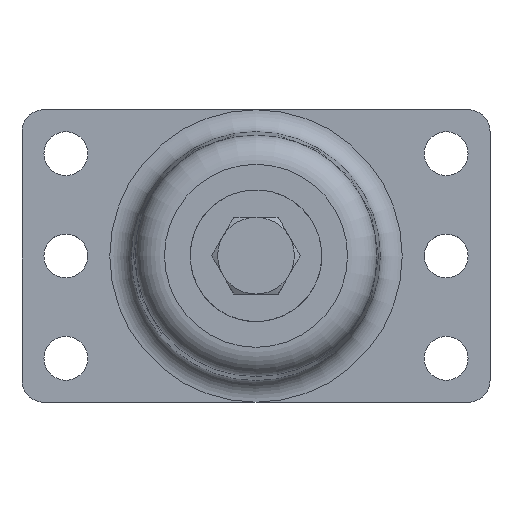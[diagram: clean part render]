
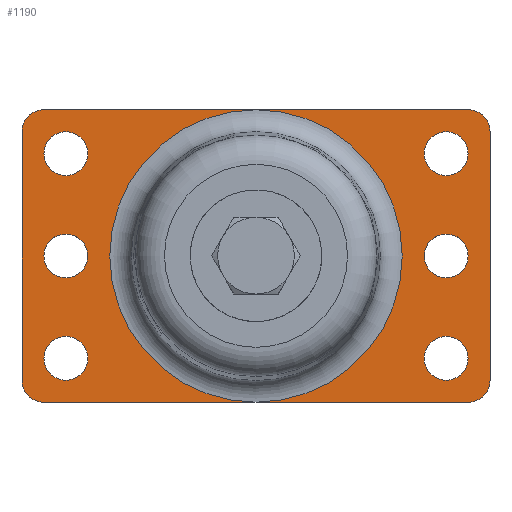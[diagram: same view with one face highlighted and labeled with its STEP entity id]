
A CAD part, top view. The second image highlights one B-rep face of the part: STEP entity #1190.
In plain terms, the highlighted planar face has unit normal (0, 0, 1).
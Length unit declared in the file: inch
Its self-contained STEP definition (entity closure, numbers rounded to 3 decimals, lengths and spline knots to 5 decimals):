
#63=PLANE('',#1308);
#98=LINE('',#1858,#132);
#102=LINE('',#1870,#136);
#106=LINE('',#1882,#140);
#110=LINE('',#1893,#144);
#132=VECTOR('',#1486,7.25);
#136=VECTOR('',#1498,4.25);
#140=VECTOR('',#1510,4.25);
#144=VECTOR('',#1522,7.25);
#173=FACE_BOUND('',#349,.T.);
#174=FACE_BOUND('',#350,.T.);
#175=FACE_BOUND('',#351,.T.);
#176=FACE_BOUND('',#352,.T.);
#177=FACE_BOUND('',#353,.T.);
#178=FACE_BOUND('',#354,.T.);
#179=FACE_BOUND('',#355,.T.);
#252=FACE_OUTER_BOUND('',#348,.T.);
#348=EDGE_LOOP('',(#848,#849,#850,#851,#852,#853,#854,#855));
#349=EDGE_LOOP('',(#856));
#350=EDGE_LOOP('',(#857));
#351=EDGE_LOOP('',(#858));
#352=EDGE_LOOP('',(#859));
#353=EDGE_LOOP('',(#860));
#354=EDGE_LOOP('',(#861));
#355=EDGE_LOOP('',(#862));
#480=CIRCLE('',#1268,0.375);
#482=CIRCLE('',#1271,0.375);
#484=CIRCLE('',#1274,0.375);
#486=CIRCLE('',#1277,0.375);
#488=CIRCLE('',#1280,0.375);
#490=CIRCLE('',#1283,0.375);
#492=CIRCLE('',#1286,0.375);
#494=CIRCLE('',#1290,0.375);
#496=CIRCLE('',#1294,0.375);
#498=CIRCLE('',#1298,0.375);
#503=CIRCLE('',#1307,2.49916);
#564=VERTEX_POINT('',#1818);
#566=VERTEX_POINT('',#1823);
#568=VERTEX_POINT('',#1828);
#570=VERTEX_POINT('',#1833);
#572=VERTEX_POINT('',#1838);
#574=VERTEX_POINT('',#1843);
#576=VERTEX_POINT('',#1848);
#577=VERTEX_POINT('',#1849);
#580=VERTEX_POINT('',#1857);
#582=VERTEX_POINT('',#1863);
#584=VERTEX_POINT('',#1869);
#586=VERTEX_POINT('',#1875);
#588=VERTEX_POINT('',#1881);
#590=VERTEX_POINT('',#1887);
#595=VERTEX_POINT('',#1904);
#668=EDGE_CURVE('',#564,#564,#480,.T.);
#670=EDGE_CURVE('',#566,#566,#482,.T.);
#672=EDGE_CURVE('',#568,#568,#484,.T.);
#674=EDGE_CURVE('',#570,#570,#486,.T.);
#676=EDGE_CURVE('',#572,#572,#488,.T.);
#678=EDGE_CURVE('',#574,#574,#490,.T.);
#680=EDGE_CURVE('',#576,#577,#492,.T.);
#684=EDGE_CURVE('',#577,#580,#98,.T.);
#687=EDGE_CURVE('',#580,#582,#494,.T.);
#690=EDGE_CURVE('',#582,#584,#102,.T.);
#693=EDGE_CURVE('',#584,#586,#496,.T.);
#696=EDGE_CURVE('',#588,#576,#106,.T.);
#699=EDGE_CURVE('',#590,#588,#498,.T.);
#702=EDGE_CURVE('',#586,#590,#110,.T.);
#707=EDGE_CURVE('',#595,#595,#503,.T.);
#848=ORIENTED_EDGE('',*,*,#693,.T.);
#849=ORIENTED_EDGE('',*,*,#702,.T.);
#850=ORIENTED_EDGE('',*,*,#699,.T.);
#851=ORIENTED_EDGE('',*,*,#696,.T.);
#852=ORIENTED_EDGE('',*,*,#680,.T.);
#853=ORIENTED_EDGE('',*,*,#684,.T.);
#854=ORIENTED_EDGE('',*,*,#687,.T.);
#855=ORIENTED_EDGE('',*,*,#690,.T.);
#856=ORIENTED_EDGE('',*,*,#668,.T.);
#857=ORIENTED_EDGE('',*,*,#670,.T.);
#858=ORIENTED_EDGE('',*,*,#672,.T.);
#859=ORIENTED_EDGE('',*,*,#674,.T.);
#860=ORIENTED_EDGE('',*,*,#676,.T.);
#861=ORIENTED_EDGE('',*,*,#678,.T.);
#862=ORIENTED_EDGE('',*,*,#707,.T.);
#1190=ADVANCED_FACE('',(#252,#173,#174,#175,#176,#177,#178,#179),#63,.T.);
#1268=AXIS2_PLACEMENT_3D('',#1819,#1442,#1443);
#1271=AXIS2_PLACEMENT_3D('',#1824,#1448,#1449);
#1274=AXIS2_PLACEMENT_3D('',#1829,#1454,#1455);
#1277=AXIS2_PLACEMENT_3D('',#1834,#1460,#1461);
#1280=AXIS2_PLACEMENT_3D('',#1839,#1466,#1467);
#1283=AXIS2_PLACEMENT_3D('',#1844,#1472,#1473);
#1286=AXIS2_PLACEMENT_3D('',#1850,#1478,#1479);
#1290=AXIS2_PLACEMENT_3D('',#1864,#1491,#1492);
#1294=AXIS2_PLACEMENT_3D('',#1876,#1503,#1504);
#1298=AXIS2_PLACEMENT_3D('',#1888,#1515,#1516);
#1307=AXIS2_PLACEMENT_3D('',#1905,#1536,#1537);
#1308=AXIS2_PLACEMENT_3D('',#1906,#1538,#1539);
#1442=DIRECTION('center_axis',(0.,0.,
-1.));
#1443=DIRECTION('ref_axis',(0.,1.,0.));
#1448=DIRECTION('center_axis',(0.,0.,
-1.));
#1449=DIRECTION('ref_axis',(0.,1.,0.));
#1454=DIRECTION('center_axis',(0.,0.,
-1.));
#1455=DIRECTION('ref_axis',(0.,1.,0.));
#1460=DIRECTION('center_axis',(0.,0.,
-1.));
#1461=DIRECTION('ref_axis',(0.,1.,0.));
#1466=DIRECTION('center_axis',(0.,0.,
-1.));
#1467=DIRECTION('ref_axis',(0.,1.,0.));
#1472=DIRECTION('center_axis',(0.,0.,
-1.));
#1473=DIRECTION('ref_axis',(0.,1.,0.));
#1478=DIRECTION('center_axis',(0.,0.,
1.));
#1479=DIRECTION('ref_axis',(0.,-1.,0.));
#1486=DIRECTION('',(-1.,0.,0.));
#1491=DIRECTION('center_axis',(0.,0.,
1.));
#1492=DIRECTION('ref_axis',(1.,0.,0.));
#1498=DIRECTION('',(0.,-1.,0.));
#1503=DIRECTION('center_axis',(0.,0.,
1.));
#1504=DIRECTION('ref_axis',(0.,1.,0.));
#1510=DIRECTION('',(0.,1.,0.));
#1515=DIRECTION('center_axis',(0.,0.,
1.));
#1516=DIRECTION('ref_axis',(-1.,0.,0.));
#1522=DIRECTION('',(1.,0.,0.));
#1536=DIRECTION('center_axis',(0.,0.,
-1.));
#1537=DIRECTION('ref_axis',(1.,0.,0.));
#1538=DIRECTION('center_axis',(0.,0.,
1.));
#1539=DIRECTION('ref_axis',(0.,-1.,0.));
#1818=CARTESIAN_POINT('',(-3.25,1.375,0.125));
#1819=CARTESIAN_POINT('Origin',(-3.25,1.75,0.125));
#1823=CARTESIAN_POINT('',(3.25,1.375,0.125));
#1824=CARTESIAN_POINT('Origin',(3.25,1.75,0.125));
#1828=CARTESIAN_POINT('',(-3.25,-0.375,0.125));
#1829=CARTESIAN_POINT('Origin',(-3.25,0.,0.125));
#1833=CARTESIAN_POINT('',(3.25,-0.375,0.125));
#1834=CARTESIAN_POINT('Origin',(3.25,0.,0.125));
#1838=CARTESIAN_POINT('',(-3.25,-2.125,0.125));
#1839=CARTESIAN_POINT('Origin',(-3.25,-1.75,0.125));
#1843=CARTESIAN_POINT('',(3.25,-2.125,0.125));
#1844=CARTESIAN_POINT('Origin',(3.25,-1.75,0.125));
#1848=CARTESIAN_POINT('',(4.,2.125,0.125));
#1849=CARTESIAN_POINT('',(3.625,2.5,0.125));
#1850=CARTESIAN_POINT('Origin',(3.625,2.125,0.125));
#1857=CARTESIAN_POINT('',(-3.625,2.5,0.125));
#1858=CARTESIAN_POINT('',(0.41596,2.5,0.125));
#1863=CARTESIAN_POINT('',(-4.,2.125,0.125));
#1864=CARTESIAN_POINT('Origin',(-3.625,2.125,0.125));
#1869=CARTESIAN_POINT('',(-4.,-2.125,0.125));
#1870=CARTESIAN_POINT('',(-4.,-1.0625,0.125));
#1875=CARTESIAN_POINT('',(-3.625,-2.5,0.125));
#1876=CARTESIAN_POINT('Origin',(-3.625,-2.125,0.125));
#1881=CARTESIAN_POINT('',(4.,-2.125,0.125));
#1882=CARTESIAN_POINT('',(4.,1.0625,0.125));
#1887=CARTESIAN_POINT('',(3.625,-2.5,0.125));
#1888=CARTESIAN_POINT('Origin',(3.625,-2.125,0.125));
#1893=CARTESIAN_POINT('',(4.04096,-2.5,0.125));
#1904=CARTESIAN_POINT('',(2.49916,0.,0.125));
#1905=CARTESIAN_POINT('Origin',(0.,0.,
0.125));
#1906=CARTESIAN_POINT('Origin',(4.45691,0.,
0.125));
